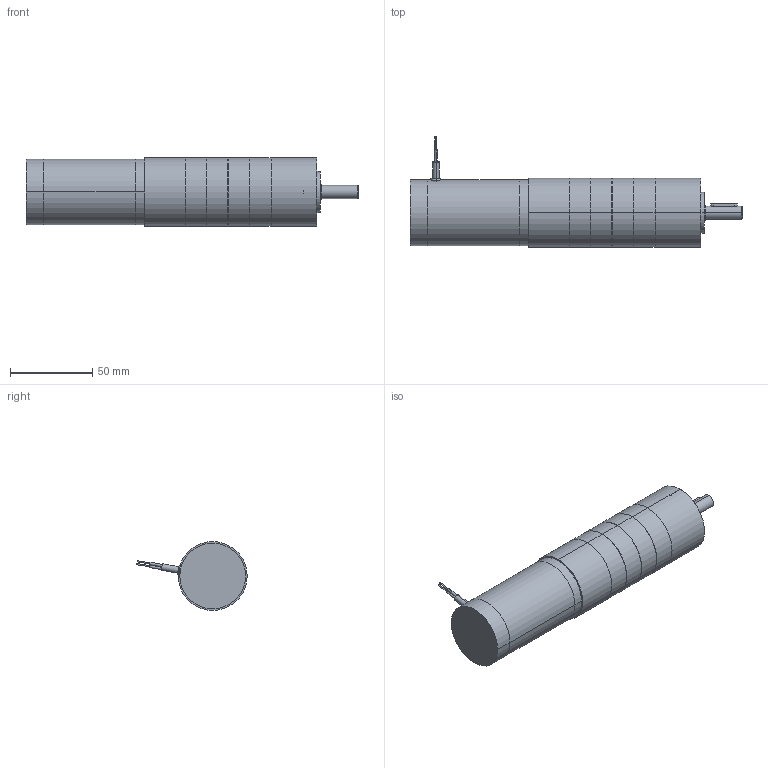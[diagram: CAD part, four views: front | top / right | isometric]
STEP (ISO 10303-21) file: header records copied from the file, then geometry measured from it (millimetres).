
FILE_DESCRIPTION (( 'STEP AP203' ), '1' );
FILE_NAME ('tm40285gp4.step', '2019-04-01T18:58:22', ( '' ), ( '' ), 'SwSTEP 2.0', 'SolidWorks 2017', '' );
FILE_SCHEMA (( 'CONFIG_CONTROL_DESIGN' ));
Length unit declared in the file: inch
Products named in the file (1): tm40285gp4
Bounding box: 202.36 x 67.24 x 42 mm (x, y, z)
Volume: 232604.4 mm3; surface area: 49066.7 mm2
Topology: 17 solids, 17 shells, 306 faces, 629 edges, 398 vertices
Faces by surface type: cylinder 133, plane 126, cone 33, torus 10, sphere 4
Entity records: 8327 total; most frequent: DIRECTION 1582, CARTESIAN_POINT 1444, ORIENTED_EDGE 1258, AXIS2_PLACEMENT_3D 652, EDGE_CURVE 629, VERTEX_POINT 398, EDGE_LOOP 365, CIRCLE 345
